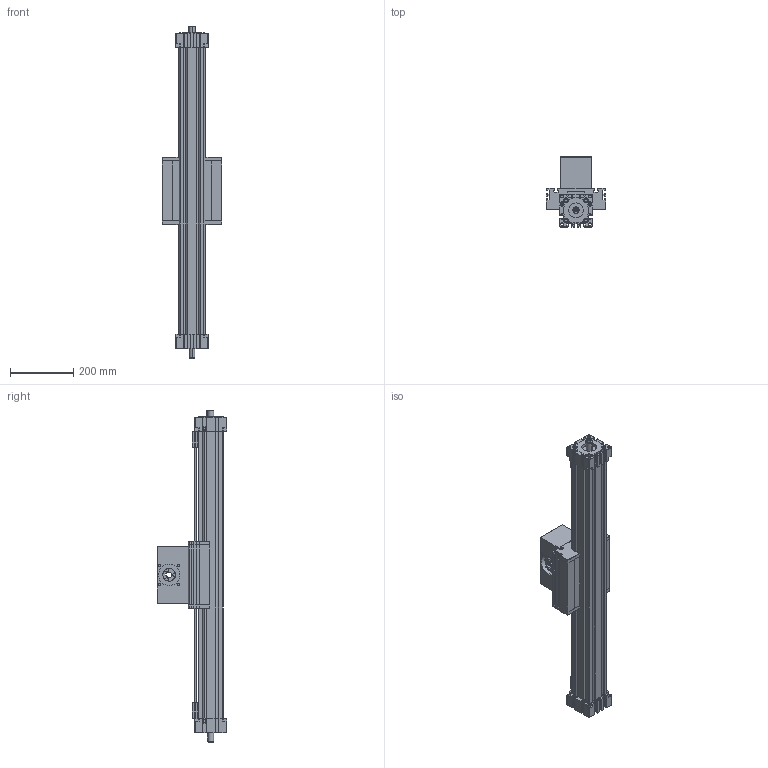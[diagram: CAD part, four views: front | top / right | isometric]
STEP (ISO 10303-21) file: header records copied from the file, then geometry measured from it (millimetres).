
FILE_DESCRIPTION (( 'STEP AP214' ), '1' );
FILE_NAME ('ELSD80S.STEP', '2022-07-21T11:19:25', ( '' ), ( '' ), 'SwSTEP 2.0', 'SolidWorks 2020', '' );
FILE_SCHEMA (( 'AUTOMOTIVE_DESIGN' ));
Length unit declared in the file: millimetre
Products named in the file (6): drive block^ELSD80S_standard; load block^ELSD80S_standard; ELSD80S; timing belt reverse unit^ELSD80S_coupling claw pos.1; profile^ELSD80S_2 guide rods; carriage ^ELSD80S_carriage version 0
Assembly tree (5 placements, depth 2):
  ELSD80S
    profile^ELSD80S_2 guide rods
    carriage ^ELSD80S_carriage version 0
    timing belt reverse unit^ELSD80S_coupling claw pos.1
    load block^ELSD80S_standard
    drive block^ELSD80S_standard
Bounding box: 190 x 221 x 1053 mm (x, y, z)
Volume: 8168419.8 mm3; surface area: 1136635.3 mm2
Topology: 14 solids, 14 shells, 1063 faces, 2918 edges, 1917 vertices
Faces by surface type: plane 779, cylinder 231, cone 41, torus 8, sphere 4
Entity records: 35566 total; most frequent: CARTESIAN_POINT 6064, ORIENTED_EDGE 5824, DIRECTION 5556, EDGE_CURVE 2912, VECTOR 2370, LINE 2370, VERTEX_POINT 1917, AXIS2_PLACEMENT_3D 1593
